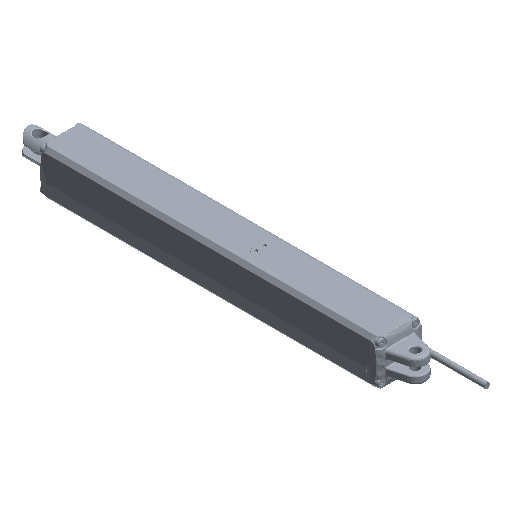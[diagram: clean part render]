
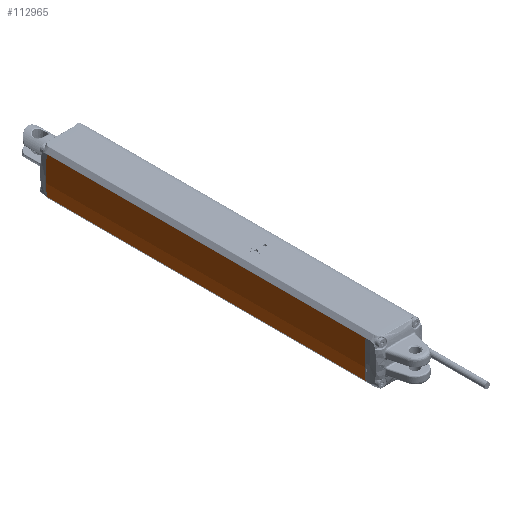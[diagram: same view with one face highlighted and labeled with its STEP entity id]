
A CAD part, isometric view. The second image highlights one B-rep face of the part: STEP entity #112965.
In plain terms, the highlighted cylindrical face has radius 150 mm (diameter 300 mm), a partial arc.
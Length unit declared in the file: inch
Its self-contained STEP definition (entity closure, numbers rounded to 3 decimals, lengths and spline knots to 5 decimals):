
#5633 = CARTESIAN_POINT ( 'NONE',  ( -0.77031, 0., -0.658 ) ) ;
#7966 = AXIS2_PLACEMENT_3D ( 'NONE', #60949, #137296, #73027 ) ;
#8724 = DIRECTION ( 'NONE',  ( 0., 0., -1. ) ) ;
#12570 = CARTESIAN_POINT ( 'NONE',  ( 5.09843, -14.56693, 0. ) ) ;
#14393 = AXIS2_PLACEMENT_3D ( 'NONE', #33983, #117173, #8724 ) ;
#16881 = VECTOR ( 'NONE', #32340, 39.37008 ) ;
#19419 = VERTEX_POINT ( 'NONE', #85611 ) ;
#20432 = AXIS2_PLACEMENT_3D ( 'NONE', #12570, #39990, #117012 ) ;
#21052 = LINE ( 'NONE', #163209, #16881 ) ;
#22844 = EDGE_CURVE ( 'NONE', #112802, #160988, #24824, .T. ) ;
#24824 = LINE ( 'NONE', #5633, #90554 ) ;
#32340 = DIRECTION ( 'NONE',  ( 0., 1., 0. ) ) ;
#33983 = CARTESIAN_POINT ( 'NONE',  ( 5.09843, 0., 0. ) ) ;
#39990 = DIRECTION ( 'NONE',  ( 0., -1., 0. ) ) ;
#41255 = ORIENTED_EDGE ( 'NONE', *, *, #164108, .F. ) ;
#59758 = CYLINDRICAL_SURFACE ( 'NONE', #14393, 5.90551 ) ;
#60949 = CARTESIAN_POINT ( 'NONE',  ( 5.09843, -3.14961, 0. ) ) ;
#62527 = ORIENTED_EDGE ( 'NONE', *, *, #22844, .T. ) ;
#63855 = FACE_OUTER_BOUND ( 'NONE', #71306, .T. ) ;
#71306 = EDGE_LOOP ( 'NONE', ( #94625, #62527, #41255, #80534 ) ) ;
#73027 = DIRECTION ( 'NONE',  ( 0., 0., -1. ) ) ;
#80534 = ORIENTED_EDGE ( 'NONE', *, *, #100284, .T. ) ;
#85611 = CARTESIAN_POINT ( 'NONE',  ( -0.77031, -14.56693, 0.658 ) ) ;
#90554 = VECTOR ( 'NONE', #166295, 39.37008 ) ;
#94625 = ORIENTED_EDGE ( 'NONE', *, *, #126268, .F. ) ;
#96592 = CIRCLE ( 'NONE', #20432, 5.90551 ) ;
#100284 = EDGE_CURVE ( 'NONE', #19419, #116211, #21052, .T. ) ;
#106441 = CARTESIAN_POINT ( 'NONE',  ( -0.77031, -3.14961, -0.658 ) ) ;
#111640 = CIRCLE ( 'NONE', #7966, 5.90551 ) ;
#112802 = VERTEX_POINT ( 'NONE', #106441 ) ;
#112965 = ADVANCED_FACE ( 'NONE', ( #63855 ), #59758, .T. ) ;
#116211 = VERTEX_POINT ( 'NONE', #135109 ) ;
#117012 = DIRECTION ( 'NONE',  ( 0., 0., 1. ) ) ;
#117173 = DIRECTION ( 'NONE',  ( 0., -1., 0. ) ) ;
#117831 = CARTESIAN_POINT ( 'NONE',  ( -0.77031, -14.56693, -0.658 ) ) ;
#126268 = EDGE_CURVE ( 'NONE', #112802, #116211, #111640, .T. ) ;
#135109 = CARTESIAN_POINT ( 'NONE',  ( -0.77031, -3.14961, 0.658 ) ) ;
#137296 = DIRECTION ( 'NONE',  ( 0., 1., 0. ) ) ;
#160988 = VERTEX_POINT ( 'NONE', #117831 ) ;
#163209 = CARTESIAN_POINT ( 'NONE',  ( -0.77031, 0., 0.658 ) ) ;
#164108 = EDGE_CURVE ( 'NONE', #19419, #160988, #96592, .T. ) ;
#166295 = DIRECTION ( 'NONE',  ( 0., -1., 0. ) ) ;
